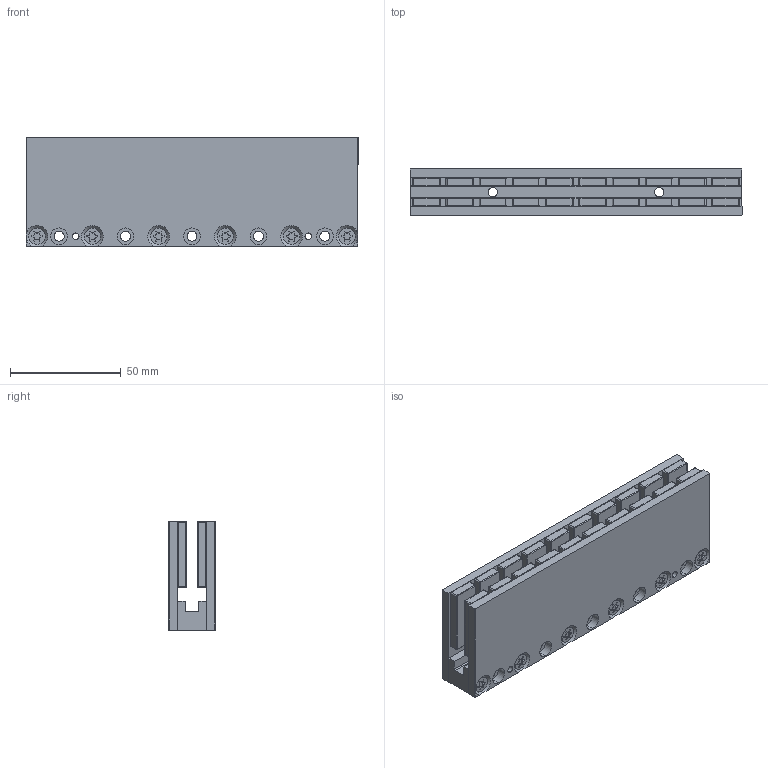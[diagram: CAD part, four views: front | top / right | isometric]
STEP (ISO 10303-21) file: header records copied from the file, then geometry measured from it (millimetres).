
FILE_DESCRIPTION (( 'STEP AP203' ), '1' );
FILE_NAME ('MY59-150.STEP', '2022-10-28T06:19:09', ( '' ), ( '' ), 'SwSTEP 2.0', 'SolidWorks 2021', '' );
FILE_SCHEMA (( 'CONFIG_CONTROL_DESIGN' ));
Length unit declared in the file: millimetre
Products named in the file (1): MY59-150
Bounding box: 149.9 x 21.1 x 49.21 mm (x, y, z)
Volume: 105899.4 mm3; surface area: 67676.9 mm2
Topology: 35 solids, 35 shells, 1142 faces, 2772 edges, 1700 vertices
Faces by surface type: cylinder 552, plane 330, torus 160, cone 100
Entity records: 33629 total; most frequent: DIRECTION 6374, CARTESIAN_POINT 5699, ORIENTED_EDGE 5544, EDGE_CURVE 2772, AXIS2_PLACEMENT_3D 2487, VERTEX_POINT 1700, VECTOR 1400, LINE 1400
